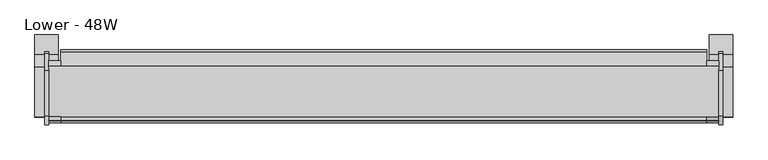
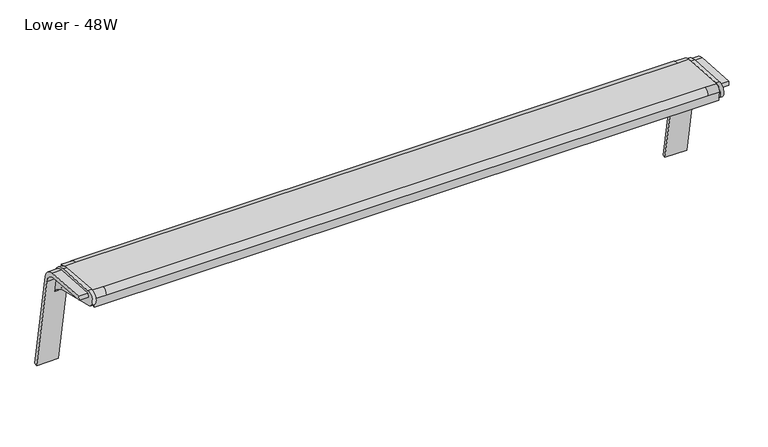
"""IFC4 building model written with IfcOpenShell, lengths in millimetres: furniture geometry, Steelcase Turnstone - Bivi - Accessories - Footshelf : Lower - 48W."""

import ifcopenshell
import ifcopenshell.guid

model = None  # the IFC model being written
_history = None  # IfcOwnerHistory: only IFC2X3 demands one
_inside = {}  # id of a spatial element -> (the spatial element, [elements in it])
_under = {}  # id of a project, library or spatial element -> (it, [spatial elements below it])
_declared = {}  # id of a project -> (the project, [libraries it declares])
_typed = {}  # id of a type object -> (the type object, [elements of that type])
_made_of = {}  # id of a material, layer set ... -> (it, [elements and type objects made of it])


def new_model(schema):
    """Start an empty IFC model of exactly this schema.

    Asked for "IFC4X3", IfcOpenShell would pick the latest addendum, in which some entities
    have other attributes; the version numbers below select the first issue.
    IFC2X3 requires an IfcOwnerHistory on every rooted entity: one is made here for all.
    """
    global model, _history
    if schema == "IFC4X3":
        model = ifcopenshell.file(schema_version=(4, 3, 0, 0))
    else:
        model = ifcopenshell.file(schema=schema)
    _inside.clear()
    _under.clear()
    _declared.clear()
    _typed.clear()
    _made_of.clear()
    _history = None
    if model.schema == "IFC2X3":
        org = make("IfcOrganization", Name="unknown")
        user = make(
            "IfcPersonAndOrganization",
            ThePerson=make("IfcPerson", FamilyName="unknown"),
            TheOrganization=org,
        )
        app = make(
            "IfcApplication",
            ApplicationDeveloper=org,
            Version="unknown",
            ApplicationFullName="unknown",
            ApplicationIdentifier="unknown",
        )
        _history = make(
            "IfcOwnerHistory",
            OwningUser=user,
            OwningApplication=app,
            ChangeAction="ADDED",
            CreationDate=0,
        )
    return model


def make(cls, **values):
    """One entity of the class cls with the attributes given. An attribute that is None is left unset."""
    return model.create_entity(
        cls, **{name: value for name, value in values.items() if value is not None}
    )


def rooted(cls, **values):
    """An entity with a GlobalId (a new one), such as an element, a storey or a relation."""
    return make(cls, GlobalId=ifcopenshell.guid.new(), OwnerHistory=_history, **values)


def si_unit(unit_type, name, prefix=None):
    """IfcSIUnit, for example si_unit("LENGTHUNIT", "METRE", prefix="MILLI")."""
    return make("IfcSIUnit", UnitType=unit_type, Prefix=prefix, Name=name)


def assignment(units):
    """IfcUnitAssignment: the units of a project."""
    return None if units is None else make("IfcUnitAssignment", Units=units)


def point(xyz):
    """IfcCartesianPoint."""
    return None if xyz is None else make("IfcCartesianPoint", Coordinates=xyz)


def direction(xyz):
    """IfcDirection."""
    return None if xyz is None else make("IfcDirection", DirectionRatios=xyz)


def frame(location, z_axis=None, x_axis=None):
    """IfcAxis2Placement3D, a coordinate frame: its origin and axes. An axis left out is left unset."""
    return make(
        "IfcAxis2Placement3D",
        Location=point(location),
        Axis=direction(z_axis),
        RefDirection=direction(x_axis),
    )


def frame_2d(location, x_axis=None):
    """IfcAxis2Placement2D, a coordinate frame in the plane: its origin and x axis."""
    return make(
        "IfcAxis2Placement2D", Location=point(location), RefDirection=direction(x_axis)
    )


def origin():
    """The frame at (0, 0, 0) with its axes left unset."""
    return frame((0.0, 0.0, 0.0))


def place(relative_to, where):
    """IfcLocalPlacement: puts the frame where relative to a parent placement (None: the world)."""
    return make(
        "IfcLocalPlacement", PlacementRelTo=relative_to, RelativePlacement=where
    )


def context(
    kind, dimensions, precision=None, world=None, true_north=None, identifier=None
):
    """IfcGeometricRepresentationContext, for example the 3D "Model" context."""
    return make(
        "IfcGeometricRepresentationContext",
        ContextIdentifier=identifier,
        ContextType=kind,
        CoordinateSpaceDimension=dimensions,
        Precision=precision,
        WorldCoordinateSystem=world,
        TrueNorth=true_north,
    )


def project(units=None, contexts=None):
    """IfcProject with its units and contexts."""
    return rooted(
        "IfcProject",
        Name="project",
        RepresentationContexts=contexts,
        UnitsInContext=assignment(units),
    )


def spatial(cls, under=None, at=None, **own):
    """A site, building, storey or space (cls), placed at a placement, below another one or the project."""
    s = rooted(cls, ObjectPlacement=at, **own)
    if under is not None:
        _under.setdefault(under.id(), (under, []))[1].append(s)
    return s


def polyline(points):
    """IfcPolyline through the points."""
    return make("IfcPolyline", Points=[point(p) for p in points])


def circle_curve(where, radius):
    """IfcCircle in the frame where."""
    return make("IfcCircle", Position=where, Radius=radius)


def trimmed(basis, trim1, trim2, sense, master):
    """IfcTrimmedCurve: the piece of a basis curve between two trims."""
    return make(
        "IfcTrimmedCurve",
        BasisCurve=basis,
        Trim1=trim1,
        Trim2=trim2,
        SenseAgreement=sense,
        MasterRepresentation=master,
    )


def segment(curve, same_sense, transition):
    """IfcCompositeCurveSegment."""
    return make(
        "IfcCompositeCurveSegment",
        Transition=transition,
        SameSense=same_sense,
        ParentCurve=curve,
    )


def composite_curve(segments, self_intersect=None):
    """IfcCompositeCurve: segments joined end to end."""
    return make("IfcCompositeCurve", Segments=segments, SelfIntersect=self_intersect)


def outline(outer, holes=None, kind="AREA"):
    """IfcArbitraryClosedProfileDef: a profile drawn as a closed curve; with holes, ...WithVoids."""
    if holes is None:
        return make("IfcArbitraryClosedProfileDef", ProfileType=kind, OuterCurve=outer)
    return make(
        "IfcArbitraryProfileDefWithVoids",
        ProfileType=kind,
        OuterCurve=outer,
        InnerCurves=holes,
    )


def extrude(swept, where, along, depth):
    """IfcExtrudedAreaSolid: the profile swept, set in the frame where, extruded along a direction by depth."""
    return make(
        "IfcExtrudedAreaSolid",
        SweptArea=swept,
        Position=where,
        ExtrudedDirection=direction(along),
        Depth=depth,
    )


def shape(context_of_items, identifier, shape_type, items):
    """IfcShapeRepresentation: the items that make up one representation, for example the "Body"."""
    return make(
        "IfcShapeRepresentation",
        ContextOfItems=context_of_items,
        RepresentationIdentifier=identifier,
        RepresentationType=shape_type,
        Items=items,
    )


def source(mapping_origin, context_of_items, identifier, shape_type, items):
    """IfcRepresentationMap: a shape defined once, which mapped items show again and again."""
    return make(
        "IfcRepresentationMap",
        MappingOrigin=mapping_origin,
        MappedRepresentation=shape(context_of_items, identifier, shape_type, items),
    )


def transform(
    local_origin,
    x_axis=None,
    y_axis=None,
    z_axis=None,
    scale=None,
    scale2=None,
    scale3=None,
    uniform=True,
):
    """IfcCartesianTransformationOperator3D, or its non-uniform kind. x_axis, y_axis, z_axis: its Axis1, 2, 3."""
    if uniform:
        return make(
            "IfcCartesianTransformationOperator3D",
            Axis1=direction(x_axis),
            Axis2=direction(y_axis),
            LocalOrigin=point(local_origin),
            Scale=scale,
            Axis3=direction(z_axis),
        )
    return make(
        "IfcCartesianTransformationOperator3DnonUniform",
        Axis1=direction(x_axis),
        Axis2=direction(y_axis),
        LocalOrigin=point(local_origin),
        Scale=scale,
        Axis3=direction(z_axis),
        Scale2=scale2,
        Scale3=scale3,
    )


def mapped(mapping_source, mapping_target):
    """IfcMappedItem: shows the shape of a source again, moved by a transform."""
    return make(
        "IfcMappedItem", MappingSource=mapping_source, MappingTarget=mapping_target
    )


def made_of(thing, what):
    """Note that an element or type object is made of a material, layer set ...; save() writes the relation."""
    if what is not None:
        _made_of.setdefault(what.id(), (what, []))[1].append(thing)
    return thing


def element(
    cls,
    number,
    at=None,
    inside=None,
    cuts=None,
    type_object=None,
    material=None,
    context=None,
    identifier="Body",
    shape_type=None,
    held_by="IfcProductDefinitionShape",
    body=None,
    shapes=None,
    **own,
):
    """One element of the class cls, such as IfcWall. Its Tag is "e" and its number.

    at: its placement. inside: the storey or other place that contains it. cuts: it is an
    opening in that element (IfcRelVoidsElement). A single representation is given by context,
    identifier, shape_type and body (its items); several are given by shapes. held_by: the class
    of the entity that holds the representations. save() writes the other relations.
    """
    e = rooted(cls, Tag="e%d" % number, ObjectPlacement=at, **own)
    if body is not None:
        shapes = [shape(context, identifier, shape_type, body)]
    if shapes is not None:
        e.Representation = make(held_by, Representations=shapes)
    if inside is not None:
        _inside.setdefault(inside.id(), (inside, []))[1].append(e)
    if cuts is not None:
        rooted(
            "IfcRelVoidsElement", RelatingBuildingElement=cuts, RelatedOpeningElement=e
        )
    if type_object is not None:
        _typed.setdefault(type_object.id(), (type_object, []))[1].append(e)
    return made_of(e, material)


def aggregate(whole, parts):
    """IfcRelAggregates: a whole, such as a stair, and the parts it consists of."""
    return rooted("IfcRelAggregates", RelatingObject=whole, RelatedObjects=parts)


def save(model, path):
    """Write the relations noted so far, then the file.

    IfcRelAggregates (storeys below a building ...), IfcRelContainedInSpatialStructure (elements
    in a storey), IfcRelDefinesByType, IfcRelAssociatesMaterial and IfcRelDeclares: one each for
    every whole, place, type object, material and project.
    """
    for whole, parts in _under.values():
        aggregate(whole, parts)
    for where, things in _inside.values():
        rooted(
            "IfcRelContainedInSpatialStructure",
            RelatedElements=things,
            RelatingStructure=where,
        )
    for kind, things in _typed.values():
        rooted("IfcRelDefinesByType", RelatedObjects=things, RelatingType=kind)
    for what, things in _made_of.values():
        rooted("IfcRelAssociatesMaterial", RelatedObjects=things, RelatingMaterial=what)
    for by, libraries in _declared.values():
        rooted("IfcRelDeclares", RelatingContext=by, RelatedDefinitions=libraries)
    model.write(path)


def plane_surface(at):
    """IfcPlane: the flat surface through the origin of the frame at, square to its z axis."""
    return make("IfcPlane", Position=at)


def cylinder_surface(at, radius):
    """IfcCylindricalSurface: all points at the distance radius from the z axis of the frame at."""
    return make("IfcCylindricalSurface", Position=at, Radius=radius)


def revolved_surface(curve, axis_point, axis_direction):
    """IfcSurfaceOfRevolution: the curve turned about the line through axis_point along axis_direction."""
    return make(
        "IfcSurfaceOfRevolution",
        SweptCurve=make("IfcArbitraryOpenProfileDef", ProfileType="CURVE", Curve=curve),
        AxisPosition=make("IfcAxis1Placement", Location=point(axis_point), Axis=direction(axis_direction)),
    )


def advanced_brep(points, edges, surfaces, faces):
    """IfcAdvancedBrep: a solid bounded by faces that lie on surfaces and meet in shared edges.

    An edge is (start, end): straight between two places in points (the first is 0);
    or (start, end, curve); or (start, end, curve, False) where it runs against its curve.
    A face is (place in surfaces, loops), or (place, loops, False) where it looks against
    its surface's normal. A loop lists edges by number (the first is 1), with a minus sign
    where the edge is run from its end to its start. The first loop is the outer one.
    """
    corners = [point(p) for p in points]
    vertices = [make("IfcVertexPoint", VertexGeometry=c) for c in corners]
    made = []
    for start, end, *more in edges:
        made.append(
            make(
                "IfcEdgeCurve",
                EdgeStart=vertices[start],
                EdgeEnd=vertices[end],
                EdgeGeometry=more[0] if more else make("IfcPolyline", Points=[corners[start], corners[end]]),
                SameSense=more[1] if len(more) > 1 else True,
            )
        )
    hull = []
    for where, loops, *sense in faces:
        bounds = []
        for j, loop in enumerate(loops):
            ring = [make("IfcOrientedEdge", EdgeElement=made[abs(k) - 1], Orientation=k > 0) for k in loop]
            bounds.append(
                make(
                    "IfcFaceOuterBound" if j == 0 else "IfcFaceBound",
                    Bound=make("IfcEdgeLoop", EdgeList=ring),
                    Orientation=True,
                )
            )
        hull.append(make("IfcAdvancedFace", Bounds=bounds, FaceSurface=surfaces[where], SameSense=sense[0] if sense else True))
    return make("IfcAdvancedBrep", Outer=make("IfcClosedShell", CfsFaces=hull))


def lower_48w_93449fcc(model_context):
    return source(origin(), model_context, "Body", "SolidModel", [
        advanced_brep(
        [(3.8089258, 349.7007928, 225.2598813), (3.8089258, 345.6739167, 224.8366396), (3.8089258, 343.7814901, 242.8418758), (3.8089258, 354.5223353, 254.0153056), (3.8089258, 445.8509343, 248.0480858), (3.8089258, 456.4013878, 245.1785525), (3.8089258, 454.2428859, 240.8854416), (3.8089258, 443.2925363, 244.0318234), (3.8089258, 355.8408855, 249.7457315), (3.8089258, 347.9860524, 241.5745471), (1215.3910742, 349.7007928, 225.2598813), (1215.3910742, 345.6739167, 224.8366396), (1215.3910742, 343.7814901, 242.8418758), (1193.7970434, 343.7814901, 242.8418758), (25.4029566, 343.7814901, 242.8418758), (25.4029566, 354.5223353, 254.0153056), (1193.7970434, 354.5223353, 254.0153056), (1215.3910742, 354.5223353, 254.0153056), (1215.3910742, 445.8509343, 248.0480858), (1193.7970434, 445.8509343, 248.0480858), (25.4029566, 445.8509343, 248.0480858), (25.4029566, 456.4013878, 245.1785525), (25.4029566, 454.2428859, 240.8854416), (25.4029566, 443.2925363, 244.0318234), (1193.7970434, 443.2925363, 244.0318234), (1215.3910742, 443.2925363, 244.0318234), (1215.3910742, 355.8408855, 249.7457315), (1193.7970434, 355.8408855, 249.7457315), (25.4029566, 355.8408855, 249.7457315), (25.4029566, 347.9860524, 241.5745471), (1193.7970434, 347.9860524, 241.5745471), (1215.3910742, 347.9860524, 241.5745471), (1215.3910742, 454.2428859, 240.8854416), (1215.3910742, 456.4013878, 245.1785525), (1193.7970434, 456.4013878, 245.1785525), (1193.7970434, 454.2428859, 240.8854416), (1193.7970434, 471.1171503, 225.402562), (1193.7970434, 467.8983227, 221.9782273), (1193.7970434, 472.1069682, 198.1098126), (1193.7970434, 475.8257425, 198.6988086), (25.4029566, 467.8983227, 221.9782273), (25.4029566, 471.1171503, 225.402562), (25.4029566, 475.8257425, 198.6988086), (25.4029566, 472.1069682, 198.1098126)],
        [
            (0, 1),
            (1, 2),
            (2, 3, circle_curve(frame((3.8089258, 353.8615092, 243.9013285), z_axis=(-1.0, 0.0, 0.0), x_axis=(0.0, -1.0, 0.0)), 10.1355426)),
            (3, 4),
            (4, 5, circle_curve(frame((3.8089258, 444.0595974, 220.6315854), z_axis=(-1.0, 0.0, 0.0), x_axis=(0.0, -1.0, 0.0)), 27.4749592)),
            (5, 6),
            (6, 7, circle_curve(frame((3.8089258, 441.5480229, 217.3319585), z_axis=(1.0, 0.0, 0.0), x_axis=(0.0, -1.0, 0.0)), 26.7567957)),
            (7, 8),
            (8, 9, circle_curve(frame((3.8089258, 355.3576201, 242.3493301), z_axis=(1.0, 0.0, 0.0), x_axis=(0.0, -1.0, 0.0)), 7.4121724)),
            (9, 0),
            (0, 10),
            (10, 11),
            (11, 1),
            (11, 12),
            (12, 13),
            (13, 14),
            (14, 2),
            (14, 15, circle_curve(frame((25.4029566, 353.8615092, 243.9013285), z_axis=(-1.0, 0.0, 0.0), x_axis=(0.0, -1.0, 0.0)), 10.1355426)),
            (15, 3),
            (15, 16),
            (16, 17),
            (17, 18),
            (18, 19),
            (19, 20),
            (20, 4),
            (20, 21, circle_curve(frame((25.4029566, 444.0595974, 220.6315854), z_axis=(-1.0, 0.0, 0.0), x_axis=(0.0, -1.0, 0.0)), 27.4749592)),
            (21, 5),
            (6, 22),
            (22, 23, circle_curve(frame((25.4029566, 441.5480229, 217.3319585), z_axis=(1.0, 0.0, 0.0), x_axis=(0.0, -1.0, 0.0)), 26.7567957)),
            (23, 7),
            (23, 24),
            (24, 25),
            (25, 26),
            (26, 27),
            (27, 28),
            (28, 8),
            (28, 29, circle_curve(frame((25.4029566, 355.3576201, 242.3493301), z_axis=(1.0, 0.0, 0.0), x_axis=(0.0, -1.0, 0.0)), 7.4121724)),
            (29, 9),
            (29, 30),
            (30, 31),
            (31, 10),
            (21, 22),
            (31, 26, circle_curve(frame((1215.3910742, 355.3576201, 242.3493301), z_axis=(-1.0, 0.0, 0.0), x_axis=(0.0, -1.0, 0.0)), 7.4121724)),
            (25, 32, circle_curve(frame((1215.3910742, 441.5480229, 217.3319585), z_axis=(-1.0, 0.0, 0.0), x_axis=(0.0, -1.0, 0.0)), 26.7567957)),
            (32, 33),
            (33, 18, circle_curve(frame((1215.3910742, 444.0595974, 220.6315854), z_axis=(1.0, 0.0, 0.0), x_axis=(0.0, -1.0, 0.0)), 27.4749592)),
            (17, 12, circle_curve(frame((1215.3910742, 353.8615092, 243.9013285), z_axis=(1.0, 0.0, 0.0), x_axis=(0.0, -1.0, 0.0)), 10.1355426)),
            (16, 13, circle_curve(frame((1193.7970434, 353.8615092, 243.9013285), z_axis=(1.0, 0.0, 0.0), x_axis=(0.0, -1.0, 0.0)), 10.1355426)),
            (33, 34),
            (34, 19, circle_curve(frame((1193.7970434, 444.0595974, 220.6315854), z_axis=(1.0, 0.0, 0.0), x_axis=(0.0, -1.0, 0.0)), 27.4749592)),
            (24, 35, circle_curve(frame((1193.7970434, 441.5480229, 217.3319585), z_axis=(-1.0, 0.0, 0.0), x_axis=(0.0, -1.0, 0.0)), 26.7567957)),
            (35, 32),
            (30, 27, circle_curve(frame((1193.7970434, 355.3576201, 242.3493301), z_axis=(-1.0, 0.0, 0.0), x_axis=(0.0, -1.0, 0.0)), 7.4121724)),
            (35, 34),
            (36, 34, circle_curve(frame((1193.7970434, 444.0595974, 220.6315854), z_axis=(1.0, 0.0, 0.0), x_axis=(0.0, -1.0, 0.0)), 27.4749592)),
            (35, 37, circle_curve(frame((1193.7970434, 441.5480229, 217.3319585), z_axis=(-1.0, 0.0, 0.0), x_axis=(0.0, -1.0, 0.0)), 26.7567957)),
            (37, 38),
            (38, 39),
            (39, 36),
            (40, 22, circle_curve(frame((25.4029566, 441.5480229, 217.3319585), z_axis=(1.0, 0.0, 0.0), x_axis=(0.0, -1.0, 0.0)), 26.7567957)),
            (21, 41, circle_curve(frame((25.4029566, 444.0595974, 220.6315854), z_axis=(-1.0, 0.0, 0.0), x_axis=(0.0, -1.0, 0.0)), 27.4749592)),
            (41, 42),
            (42, 43),
            (43, 40),
            (36, 41),
            (39, 42),
            (38, 43),
            (37, 40),
        ],
        [
            plane_surface(frame((3.8089258, 345.6739167, 224.8366396), z_axis=(-1.0, 0.0, 0.0), x_axis=(0.0, 0.9945218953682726, 0.10452846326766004))),
            plane_surface(frame((25.4029566, 349.7007928, 225.2598813), z_axis=(0.0, 0.10452846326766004, -0.9945218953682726), x_axis=(-1.0, 0.0, 0.0))),
            plane_surface(frame((25.4029566, 345.6739167, 224.8366396), z_axis=(0.0, -0.9945218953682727, -0.1045284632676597), x_axis=(-1.0, 0.0, 0.0))),
            cylinder_surface(frame((3.8089258, 353.8615092, 243.9013285), z_axis=(1.0, 0.0, 0.0), x_axis=(0.0, -1.0, 0.0)), 10.1355426),
            plane_surface(frame((25.4029566, 354.5223353, 254.0153056), z_axis=(0.0, 0.06519889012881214, 0.9978722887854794), x_axis=(-1.0, 0.0, 0.0))),
            cylinder_surface(frame((3.8089258, 444.0595974, 220.6315854), z_axis=(1.0, 0.0, 0.0), x_axis=(0.0, -1.0, 0.0)), 27.4749592),
            revolved_surface(polyline([(3.8089258, 414.7912272, 217.3319585), (25.4029566, 414.7912272, 217.3319585)]), (3.8089258, 441.5480229, 217.3319585), (-1.0, 0.0, 0.0)),
            plane_surface(frame((25.4029566, 443.2925363, 244.0318234), z_axis=(0.0, -0.065198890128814, -0.9978722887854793), x_axis=(-1.0, 0.0, 0.0))),
            revolved_surface(polyline([(3.8089258, 347.94544770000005, 242.3493301), (25.4029566, 347.94544770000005, 242.3493301)]), (3.8089258, 355.3576201, 242.3493301), (-1.0, 0.0, 0.0)),
            plane_surface(frame((25.4029566, 347.9860524, 241.5745471), z_axis=(0.0, 0.9945218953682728, 0.10452846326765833), x_axis=(-1.0, 0.0, 0.0))),
            plane_surface(frame((25.4029566, 456.4013878, 245.1785525), z_axis=(0.0, 0.8934305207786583, -0.44920140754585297), x_axis=(-1.0, 0.0, 0.0))),
            plane_surface(frame((1215.3910742, 349.7007928, 225.2598813), z_axis=(1.0, 0.0, 0.0), x_axis=(0.0, 0.10452846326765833, -0.9945218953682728))),
            cylinder_surface(frame((1215.3910742, 353.8615092, 243.9013285), z_axis=(-1.0, 0.0, 0.0), x_axis=(0.0, -1.0, 0.0)), 10.1355426),
            cylinder_surface(frame((1215.3910742, 444.0595974, 220.6315854), z_axis=(-1.0, 0.0, 0.0), x_axis=(0.0, -1.0, 0.0)), 27.4749592),
            revolved_surface(polyline([(1215.3910742, 414.7912272, 217.3319585), (1193.7970434, 414.7912272, 217.3319585)]), (1215.3910742, 441.5480229, 217.3319585), (1.0, 0.0, 0.0)),
            revolved_surface(polyline([(1215.3910742, 347.94544770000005, 242.3493301), (1193.7970434, 347.94544770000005, 242.3493301)]), (1215.3910742, 355.3576201, 242.3493301), (1.0, 0.0, 0.0)),
            plane_surface(frame((1193.7970434, 454.2428859, 240.8854416), z_axis=(0.0, 0.8934305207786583, -0.44920140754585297), x_axis=(1.0, 0.0, 0.0))),
            plane_surface(frame((1193.7970434, 345.6739167, 224.8366396), z_axis=(1.0, 0.0, 0.0), x_axis=(0.0, -0.9945218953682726, -0.10452846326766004))),
            plane_surface(frame((25.4029566, 345.6739167, 224.8366396), z_axis=(-1.0, 0.0, 0.0), x_axis=(0.0, 0.9945218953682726, 0.10452846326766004))),
            cylinder_surface(frame((25.4029566, 353.8615092, 243.9013285), z_axis=(1.0, 0.0, 0.0), x_axis=(0.0, -1.0, 0.0)), 10.1355426),
            cylinder_surface(frame((25.4029566, 444.0595974, 220.6315854), z_axis=(1.0, 0.0, 0.0), x_axis=(0.0, -1.0, 0.0)), 27.4749592),
            plane_surface(frame((1193.7970434, 471.1171503, 225.402562), z_axis=(0.0, 0.9848077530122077, 0.173648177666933), x_axis=(-1.0, 0.0, 0.0))),
            plane_surface(frame((1193.7970434, 475.8257425, 198.6988086), z_axis=(0.0, 0.15643446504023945, -0.9876883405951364), x_axis=(-1.0, 0.0, 0.0))),
            plane_surface(frame((1193.7970434, 472.1069682, 198.1098126), z_axis=(0.0, -0.9848077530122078, -0.17364817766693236), x_axis=(-1.0, 0.0, 0.0))),
            revolved_surface(polyline([(25.4029566, 414.7912272, 217.3319585), (1193.7970434, 414.7912272, 217.3319585)]), (25.4029566, 441.5480229, 217.3319585), (-1.0, 0.0, 0.0)),
            revolved_surface(polyline([(25.4029566, 347.94544770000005, 242.3493301), (1193.7970434, 347.94544770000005, 242.3493301)]), (25.4029566, 355.3576201, 242.3493301), (-1.0, 0.0, 0.0)),
        ],
        [
            (0, [[1, 2, 3, 4, 5, 6, 7, 8, 9, 10]]),
            (1, [[11, 12, 13, -1]]),
            (2, [[14, 15, 16, 17, -2, -13]]),
            (3, [[-17, 18, 19, -3]]),
            (4, [[-19, 20, 21, 22, 23, 24, 25, -4]]),
            (5, [[-25, 26, 27, -5]]),
            (6, [[28, 29, 30, -7]]),
            (7, [[-30, 31, 32, 33, 34, 35, 36, -8]]),
            (8, [[-36, 37, 38, -9]]),
            (9, [[-38, 39, 40, 41, -11, -10]]),
            (10, [[-27, 42, -28, -6]]),
            (11, [[-41, 43, -33, 44, 45, 46, -22, 47, -14, -12]]),
            (12, [[-21, 48, -15, -47]]),
            (13, [[49, 50, -23, -46]]),
            (14, [[-32, 51, 52, -44]]),
            (15, [[-40, 53, -34, -43]]),
            (16, [[-52, 54, -49, -45]]),
            (17, [[55, -54, 56, 57, 58, 59]]),
            (18, [[60, -42, 61, 62, 63, 64]]),
            (19, [[-48, -20, -18, -16]]),
            (20, [[-50, -55, 65, -61, -26, -24]]),
            (21, [[66, -62, -65, -59]]),
            (22, [[67, -63, -66, -58]]),
            (23, [[68, -64, -67, -57]]),
            (24, [[-56, -51, -31, -29, -60, -68]]),
            (25, [[-53, -39, -37, -35]]),
        ],
    ),
        extrude(outline(composite_curve([segment(polyline([(502.7882548, 23.0795006), (496.6879548, 22.0038531), (462.6845207, 214.8469107)]), True, "CONTINUOUS"), segment(trimmed(circle_curve(frame_2d((437.6704038, 210.4362469)), 25.4), [point((462.6845207, 214.8469107))], [point((439.4422182, 235.7743738))], True, "CARTESIAN"), True, "CONTINUOUS"), segment(polyline([(439.4422182, 235.7743738), (354.5108168, 241.713356), (355.0660173, 249.6530936), (444.3863089, 243.4072104)]), True, "CONTINUOUS"), segment(trimmed(circle_curve(frame_2d((442.6144944, 218.0690835)), 25.4), [point((444.3863089, 243.4072104))], [point((467.6286114, 222.4797472))], False, "CARTESIAN"), True, "CONTINUOUS"), segment(polyline([(467.6286114, 222.4797472), (502.7882548, 23.0795006)]), True, "CONTINUOUS")], self_intersect=False)), frame((1198.2432837, 0.0, 0.0), z_axis=(1.0, 0.0, 0.0), x_axis=(0.0, 1.0, 0.0)), (0.0, 0.0, 1.0), 41.9137207),
        extrude(outline(composite_curve([segment(trimmed(circle_curve(frame_2d((354.4455186, 240.9900232)), 14.1866989), [point((351.0134455, 227.2247298))], [point((355.4351327, 255.142164))], False, "CARTESIAN"), True, "CONTINUOUS"), segment(polyline([(355.4351327, 255.142164), (438.3089344, 249.3470633)]), True, "CONTINUOUS"), segment(trimmed(circle_curve(frame_2d((436.025868, 216.6976929)), 32.7290969), [point((438.3089344, 249.3470633))], [point((468.3520154, 221.8176516))], False, "CARTESIAN"), True, "CONTINUOUS"), segment(polyline([(468.3520154, 221.8176516), (474.2083536, 184.8421876), (467.9594758, 184.8421876)]), True, "CONTINUOUS"), segment(trimmed(circle_curve(frame_2d((425.8853939, 155.9631832)), 51.0316105), [point((467.9594758, 184.8421876))], [point((438.2310578, 205.4789367))], True, "CARTESIAN"), True, "CONTINUOUS"), segment(polyline([(438.2310578, 205.4789367), (351.0134455, 227.2247298)]), True, "CONTINUOUS")], self_intersect=False)), frame((1215.3910742, 0.0, 0.0), z_axis=(1.0, 0.0, 0.0), x_axis=(0.0, 1.0, 0.0)), (0.0, 0.0, 1.0), 6.8553955),
        extrude(outline(composite_curve([segment(polyline([(502.7882548, 23.0795006), (496.6879548, 22.0038531), (462.6845207, 214.8469107)]), True, "CONTINUOUS"), segment(trimmed(circle_curve(frame_2d((437.6704038, 210.4362469)), 25.4), [point((462.6845207, 214.8469107))], [point((439.4422182, 235.7743738))], True, "CARTESIAN"), True, "CONTINUOUS"), segment(polyline([(439.4422182, 235.7743738), (354.5108168, 241.713356), (355.0660173, 249.6530936), (444.3863089, 243.4072104)]), True, "CONTINUOUS"), segment(trimmed(circle_curve(frame_2d((442.6144944, 218.0690835)), 25.4), [point((444.3863089, 243.4072104))], [point((467.6286114, 222.4797472))], False, "CARTESIAN"), True, "CONTINUOUS"), segment(polyline([(467.6286114, 222.4797472), (502.7882548, 23.0795006)]), True, "CONTINUOUS")], self_intersect=False)), frame((-20.9570044, 0.0, 0.0), z_axis=(1.0, 0.0, 0.0), x_axis=(0.0, 1.0, 0.0)), (0.0, 0.0, 1.0), 41.9137207),
        extrude(outline(composite_curve([segment(trimmed(circle_curve(frame_2d((354.4455186, 240.9900232)), 14.1866989), [point((351.0134455, 227.2247298))], [point((355.4351327, 255.142164))], False, "CARTESIAN"), True, "CONTINUOUS"), segment(polyline([(355.4351327, 255.142164), (438.3089344, 249.3470633)]), True, "CONTINUOUS"), segment(trimmed(circle_curve(frame_2d((436.025868, 216.6976929)), 32.7290969), [point((438.3089344, 249.3470633))], [point((468.3520154, 221.8176516))], False, "CARTESIAN"), True, "CONTINUOUS"), segment(polyline([(468.3520154, 221.8176516), (474.2083536, 184.8421876), (467.9594758, 184.8421876)]), True, "CONTINUOUS"), segment(trimmed(circle_curve(frame_2d((425.8853939, 155.9631832)), 51.0316105), [point((467.9594758, 184.8421876))], [point((438.2310578, 205.4789367))], True, "CARTESIAN"), True, "CONTINUOUS"), segment(polyline([(438.2310578, 205.4789367), (351.0134455, 227.2247298)]), True, "CONTINUOUS")], self_intersect=False)), frame((-3.0464697, 0.0, 0.0), z_axis=(1.0, 0.0, 0.0), x_axis=(0.0, 1.0, 0.0)), (0.0, 0.0, 1.0), 6.8553955),
    ])


if __name__ == "__main__":
    model = new_model("IFC4")
    model_context = context("Model", 3, world=origin())
    ifc_project = project(units=[si_unit("LENGTHUNIT", "METRE", prefix="MILLI")], contexts=[model_context])
    site = spatial("IfcSite", under=ifc_project)
    building = spatial("IfcBuilding", under=site)
    placement = place(None, origin())
    lower_48w_shape = lower_48w_93449fcc(model_context)
    element("IfcFurniture", 1, ObjectType="Steelcase Turnstone - Bivi - Accessories - Footshelf : Lower - 48W", at=placement, inside=building, context=model_context, shape_type="MappedRepresentation", body=[
        mapped(lower_48w_shape, transform((0.0, 0.0, 0.0), x_axis=(1.0, 0.0, 0.0), y_axis=(0.0, 1.0, 0.0), z_axis=(0.0, 0.0, 1.0))),
    ])
    save(model, "model.ifc")
